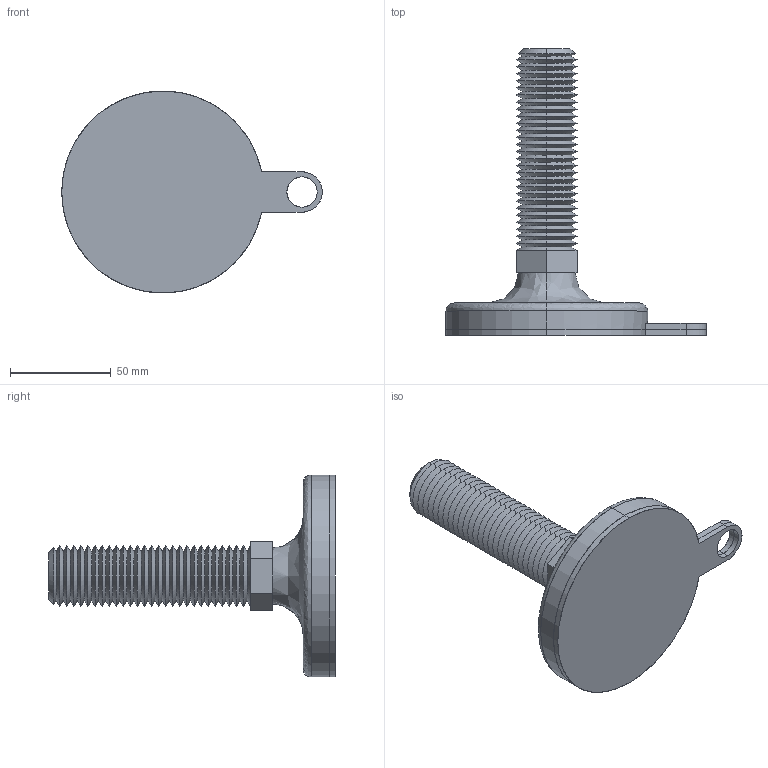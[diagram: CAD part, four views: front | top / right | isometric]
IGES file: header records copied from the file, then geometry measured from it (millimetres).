
Start section: SolidWorks IGES file using analytic representation for surfaces
Global section: file name: C:\Users\liam_\OneDrive\Documents\WORK\Work for WixRoyd\Job Files\J-00026 - Matt Davis CAD - 20191124\04. CAD Drawings\Wixroyd20191124\34704_v2\34704_v2_20191128_IGES\34704.W3000.igs; native system: SolidWorks 2017; preprocessor: SolidWorks 2017; author: liam_; date: 191128.203100; units: millimetre
Bounding box: 129 x 142 x 100 mm (x, y, z)
Surface area: 56782.5 mm2 (no closed solid volume)
Topology: 0 solids, 0 shells, 152 faces, 1258 edges, 1258 vertices
Faces by surface type: revolution 125, bspline 27
